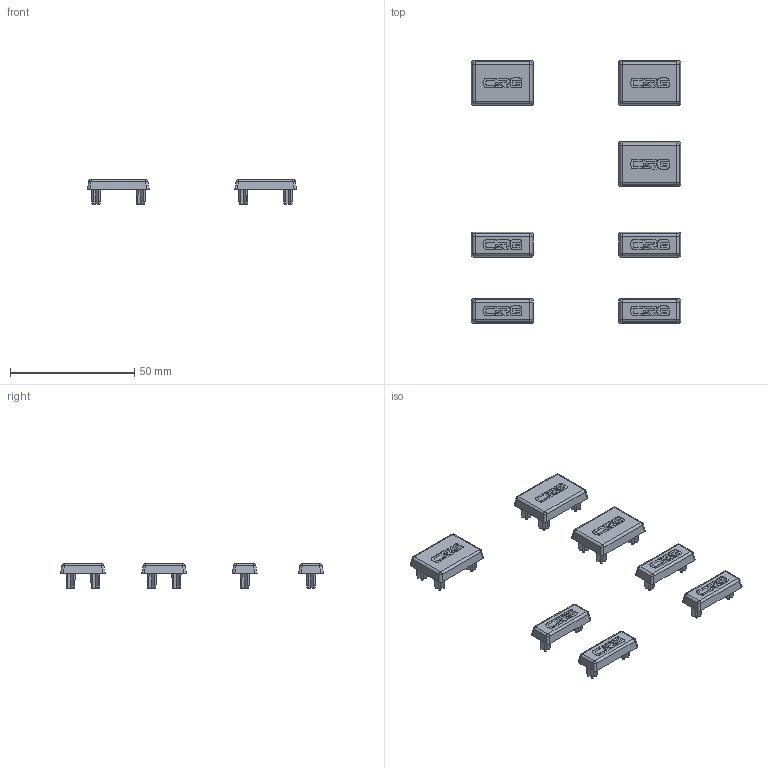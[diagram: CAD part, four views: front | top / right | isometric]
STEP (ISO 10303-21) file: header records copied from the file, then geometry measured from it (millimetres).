
FILE_DESCRIPTION (( 'STEP AP214' ), '1' );
FILE_NAME ('2510型材盖.STEP', '2019-10-31T07:53:24', ( '微软用户' ), ( '微软中国' ), 'SwSTEP 2.0', 'SolidWorks 2016', '' );
FILE_SCHEMA (( 'AUTOMOTIVE_DESIGN' ));
Length unit declared in the file: millimetre
Products named in the file (1): 2510倰第裔
Bounding box: 84.29 x 105.7 x 9.99 mm (x, y, z)
Volume: 6559.3 mm3; surface area: 9717.2 mm2
Topology: 7 solids, 7 shells, 967 faces, 2604 edges, 1708 vertices
Faces by surface type: plane 574, cylinder 285, cone 80, bspline 28
Entity records: 30999 total; most frequent: CARTESIAN_POINT 7380, ORIENTED_EDGE 5208, DIRECTION 4494, EDGE_CURVE 2604, VERTEX_POINT 1708, LINE 1618, VECTOR 1618, AXIS2_PLACEMENT_3D 1438
